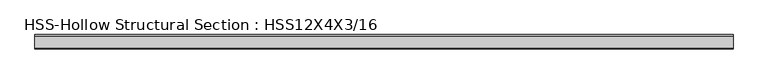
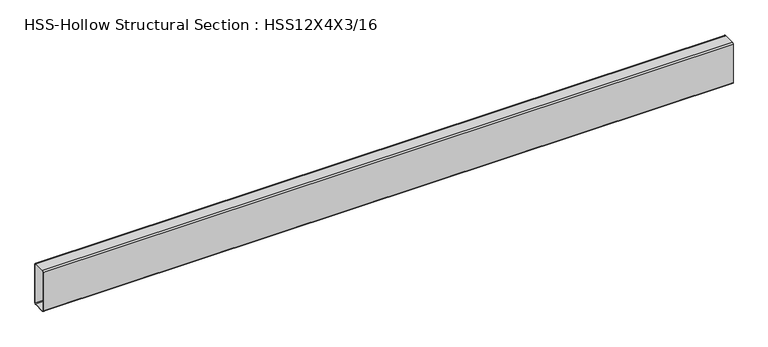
"""IFC4 building model written with IfcOpenShell, lengths in millimetres: beam geometry, HSS-Hollow Structural Section : HSS12X4X3/16."""

from ifc_helpers import new_model, si_unit, point, frame, frame_2d, origin, place, context, project, spatial, polyline, circle_curve, trimmed, segment, composite_curve, outline, extrude, source, transform, mapped, element, save


def hss_hollow_structural_section_hss12x4x3_16_d3cbb4d3(model_context):
    return source(origin(), model_context, "Body", "SweptSolid", [
        extrude(outline(composite_curve([segment(polyline([(50.8, 143.5608), (50.8, -143.5608)]), True, "CONTINUOUS"), segment(trimmed(circle_curve(frame_2d((41.9608, -143.5608)), 8.8392), [point((50.8, -143.5608))], [point((41.9608, -152.4))], False, "CARTESIAN"), True, "CONTINUOUS"), segment(polyline([(41.9608, -152.4), (-41.9608, -152.4)]), True, "CONTINUOUS"), segment(trimmed(circle_curve(frame_2d((-41.9608, -143.5608)), 8.8392), [point((-41.9608, -152.4))], [point((-50.8, -143.5608))], False, "CARTESIAN"), True, "CONTINUOUS"), segment(polyline([(-50.8, -143.5608), (-50.8, 143.5608)]), True, "CONTINUOUS"), segment(trimmed(circle_curve(frame_2d((-41.9608, 143.5608)), 8.8392), [point((-50.8, 143.5608))], [point((-41.9608, 152.4))], False, "CARTESIAN"), True, "CONTINUOUS"), segment(polyline([(-41.9608, 152.4), (41.9608, 152.4)]), True, "CONTINUOUS"), segment(trimmed(circle_curve(frame_2d((41.9608, 143.5608)), 8.8392), [point((41.9608, 152.4))], [point((50.8, 143.5608))], False, "CARTESIAN"), True, "CONTINUOUS")], self_intersect=False), holes=[composite_curve([segment(trimmed(circle_curve(frame_2d((-41.9608, 143.5608)), 4.4196), [point((-41.9608, 147.9804))], [point((-46.3804, 143.5608))], True, "CARTESIAN"), True, "CONTINUOUS"), segment(polyline([(-46.3804, 143.5608), (-46.3804, -143.5608)]), True, "CONTINUOUS"), segment(trimmed(circle_curve(frame_2d((-41.9608, -143.5608)), 4.4196), [point((-46.3804, -143.5608))], [point((-41.9608, -147.9804))], True, "CARTESIAN"), True, "CONTINUOUS"), segment(polyline([(-41.9608, -147.9804), (41.9608, -147.9804)]), True, "CONTINUOUS"), segment(trimmed(circle_curve(frame_2d((41.9608, -143.5608)), 4.4196), [point((41.9608, -147.9804))], [point((46.3804, -143.5608))], True, "CARTESIAN"), True, "CONTINUOUS"), segment(polyline([(46.3804, -143.5608), (46.3804, 143.5608)]), True, "CONTINUOUS"), segment(trimmed(circle_curve(frame_2d((41.9608, 143.5608)), 4.4196), [point((46.3804, 143.5608))], [point((41.9608, 147.9804))], True, "CARTESIAN"), True, "CONTINUOUS"), segment(polyline([(41.9608, 147.9804), (-41.9608, 147.9804)]), True, "CONTINUOUS")], self_intersect=False)]), frame((-2383.6167015, 0.0, 0.0), z_axis=(1.0, 0.0, 0.0), x_axis=(0.0, 1.0, 0.0)), (0.0, 0.0, 1.0), 4880.6376685),
    ])


if __name__ == "__main__":
    model = new_model("IFC4")
    model_context = context("Model", 3, world=origin())
    ifc_project = project(units=[si_unit("LENGTHUNIT", "METRE", prefix="MILLI")], contexts=[model_context])
    site = spatial("IfcSite", under=ifc_project)
    building = spatial("IfcBuilding", under=site)
    placement = place(None, origin())
    hss_hollow_structural_section_hss12x4x3_16_shape = hss_hollow_structural_section_hss12x4x3_16_d3cbb4d3(model_context)
    element("IfcBeam", 1, ObjectType="HSS-Hollow Structural Section : HSS12X4X3/16", at=placement, inside=building, context=model_context, shape_type="MappedRepresentation", body=[
        mapped(hss_hollow_structural_section_hss12x4x3_16_shape, transform((0.0, 0.0, 0.0), x_axis=(1.0, 0.0, 0.0), y_axis=(0.0, 1.0, 0.0), z_axis=(0.0, 0.0, 1.0))),
    ])
    save(model, "model.ifc")
